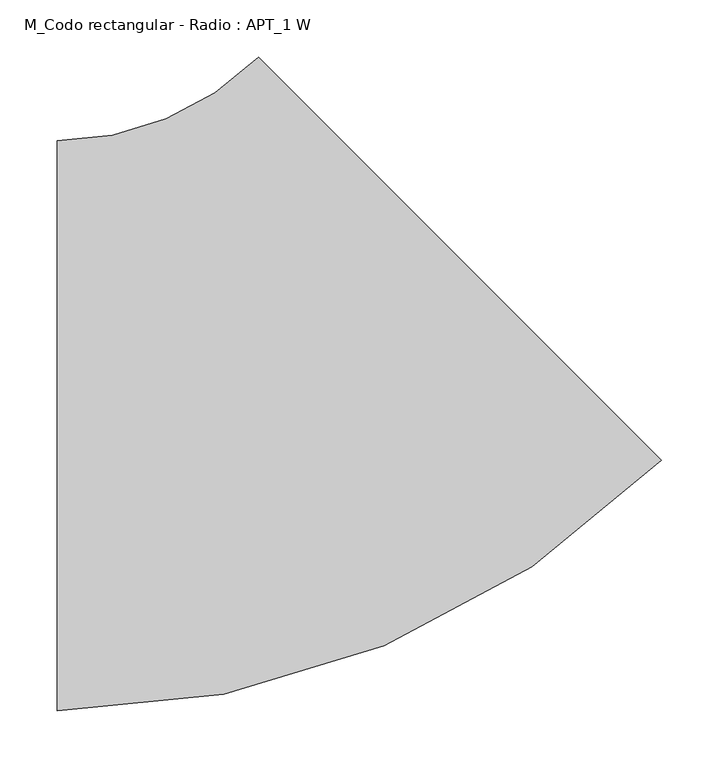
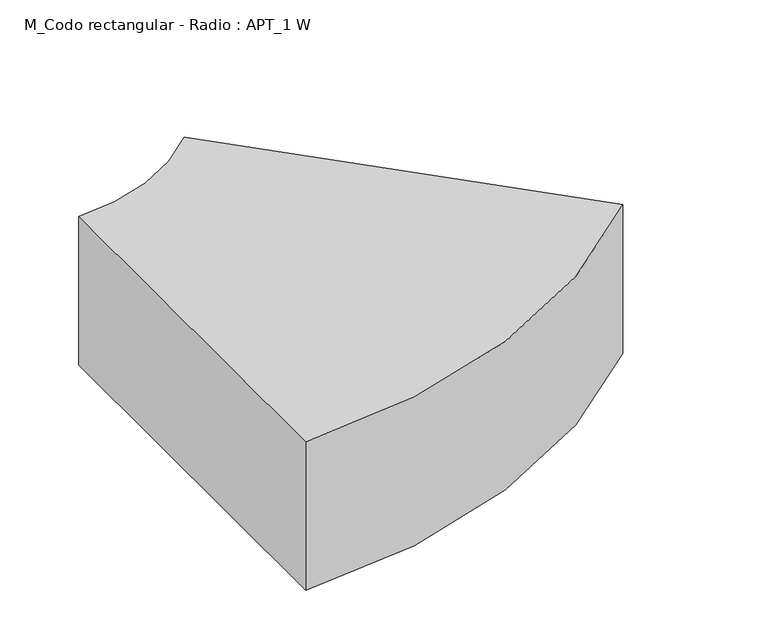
"""IFC4 building model written with IfcOpenShell, lengths in millimetres: duct fitting geometry, M_Codo rectangular - Radio : APT_1 W."""

import ifcopenshell
import ifcopenshell.guid

model = None  # the IFC model being written
_history = None  # IfcOwnerHistory: only IFC2X3 demands one
_inside = {}  # id of a spatial element -> (the spatial element, [elements in it])
_under = {}  # id of a project, library or spatial element -> (it, [spatial elements below it])
_declared = {}  # id of a project -> (the project, [libraries it declares])
_typed = {}  # id of a type object -> (the type object, [elements of that type])
_made_of = {}  # id of a material, layer set ... -> (it, [elements and type objects made of it])


def new_model(schema):
    """Start an empty IFC model of exactly this schema.

    Asked for "IFC4X3", IfcOpenShell would pick the latest addendum, in which some entities
    have other attributes; the version numbers below select the first issue.
    IFC2X3 requires an IfcOwnerHistory on every rooted entity: one is made here for all.
    """
    global model, _history
    if schema == "IFC4X3":
        model = ifcopenshell.file(schema_version=(4, 3, 0, 0))
    else:
        model = ifcopenshell.file(schema=schema)
    _inside.clear()
    _under.clear()
    _declared.clear()
    _typed.clear()
    _made_of.clear()
    _history = None
    if model.schema == "IFC2X3":
        org = make("IfcOrganization", Name="unknown")
        user = make(
            "IfcPersonAndOrganization",
            ThePerson=make("IfcPerson", FamilyName="unknown"),
            TheOrganization=org,
        )
        app = make(
            "IfcApplication",
            ApplicationDeveloper=org,
            Version="unknown",
            ApplicationFullName="unknown",
            ApplicationIdentifier="unknown",
        )
        _history = make(
            "IfcOwnerHistory",
            OwningUser=user,
            OwningApplication=app,
            ChangeAction="ADDED",
            CreationDate=0,
        )
    return model


def make(cls, **values):
    """One entity of the class cls with the attributes given. An attribute that is None is left unset."""
    return model.create_entity(
        cls, **{name: value for name, value in values.items() if value is not None}
    )


def rooted(cls, **values):
    """An entity with a GlobalId (a new one), such as an element, a storey or a relation."""
    return make(cls, GlobalId=ifcopenshell.guid.new(), OwnerHistory=_history, **values)


def si_unit(unit_type, name, prefix=None):
    """IfcSIUnit, for example si_unit("LENGTHUNIT", "METRE", prefix="MILLI")."""
    return make("IfcSIUnit", UnitType=unit_type, Prefix=prefix, Name=name)


def assignment(units):
    """IfcUnitAssignment: the units of a project."""
    return None if units is None else make("IfcUnitAssignment", Units=units)


def point(xyz):
    """IfcCartesianPoint."""
    return None if xyz is None else make("IfcCartesianPoint", Coordinates=xyz)


def direction(xyz):
    """IfcDirection."""
    return None if xyz is None else make("IfcDirection", DirectionRatios=xyz)


def frame(location, z_axis=None, x_axis=None):
    """IfcAxis2Placement3D, a coordinate frame: its origin and axes. An axis left out is left unset."""
    return make(
        "IfcAxis2Placement3D",
        Location=point(location),
        Axis=direction(z_axis),
        RefDirection=direction(x_axis),
    )


def frame_2d(location, x_axis=None):
    """IfcAxis2Placement2D, a coordinate frame in the plane: its origin and x axis."""
    return make(
        "IfcAxis2Placement2D", Location=point(location), RefDirection=direction(x_axis)
    )


def origin():
    """The frame at (0, 0, 0) with its axes left unset."""
    return frame((0.0, 0.0, 0.0))


def place(relative_to, where):
    """IfcLocalPlacement: puts the frame where relative to a parent placement (None: the world)."""
    return make(
        "IfcLocalPlacement", PlacementRelTo=relative_to, RelativePlacement=where
    )


def context(
    kind, dimensions, precision=None, world=None, true_north=None, identifier=None
):
    """IfcGeometricRepresentationContext, for example the 3D "Model" context."""
    return make(
        "IfcGeometricRepresentationContext",
        ContextIdentifier=identifier,
        ContextType=kind,
        CoordinateSpaceDimension=dimensions,
        Precision=precision,
        WorldCoordinateSystem=world,
        TrueNorth=true_north,
    )


def project(units=None, contexts=None):
    """IfcProject with its units and contexts."""
    return rooted(
        "IfcProject",
        Name="project",
        RepresentationContexts=contexts,
        UnitsInContext=assignment(units),
    )


def spatial(cls, under=None, at=None, **own):
    """A site, building, storey or space (cls), placed at a placement, below another one or the project."""
    s = rooted(cls, ObjectPlacement=at, **own)
    if under is not None:
        _under.setdefault(under.id(), (under, []))[1].append(s)
    return s


def polyline(points):
    """IfcPolyline through the points."""
    return make("IfcPolyline", Points=[point(p) for p in points])


def circle_curve(where, radius):
    """IfcCircle in the frame where."""
    return make("IfcCircle", Position=where, Radius=radius)


def trimmed(basis, trim1, trim2, sense, master):
    """IfcTrimmedCurve: the piece of a basis curve between two trims."""
    return make(
        "IfcTrimmedCurve",
        BasisCurve=basis,
        Trim1=trim1,
        Trim2=trim2,
        SenseAgreement=sense,
        MasterRepresentation=master,
    )


def segment(curve, same_sense, transition):
    """IfcCompositeCurveSegment."""
    return make(
        "IfcCompositeCurveSegment",
        Transition=transition,
        SameSense=same_sense,
        ParentCurve=curve,
    )


def composite_curve(segments, self_intersect=None):
    """IfcCompositeCurve: segments joined end to end."""
    return make("IfcCompositeCurve", Segments=segments, SelfIntersect=self_intersect)


def outline(outer, holes=None, kind="AREA"):
    """IfcArbitraryClosedProfileDef: a profile drawn as a closed curve; with holes, ...WithVoids."""
    if holes is None:
        return make("IfcArbitraryClosedProfileDef", ProfileType=kind, OuterCurve=outer)
    return make(
        "IfcArbitraryProfileDefWithVoids",
        ProfileType=kind,
        OuterCurve=outer,
        InnerCurves=holes,
    )


def extrude(swept, where, along, depth):
    """IfcExtrudedAreaSolid: the profile swept, set in the frame where, extruded along a direction by depth."""
    return make(
        "IfcExtrudedAreaSolid",
        SweptArea=swept,
        Position=where,
        ExtrudedDirection=direction(along),
        Depth=depth,
    )


def shape(context_of_items, identifier, shape_type, items):
    """IfcShapeRepresentation: the items that make up one representation, for example the "Body"."""
    return make(
        "IfcShapeRepresentation",
        ContextOfItems=context_of_items,
        RepresentationIdentifier=identifier,
        RepresentationType=shape_type,
        Items=items,
    )


def source(mapping_origin, context_of_items, identifier, shape_type, items):
    """IfcRepresentationMap: a shape defined once, which mapped items show again and again."""
    return make(
        "IfcRepresentationMap",
        MappingOrigin=mapping_origin,
        MappedRepresentation=shape(context_of_items, identifier, shape_type, items),
    )


def transform(
    local_origin,
    x_axis=None,
    y_axis=None,
    z_axis=None,
    scale=None,
    scale2=None,
    scale3=None,
    uniform=True,
):
    """IfcCartesianTransformationOperator3D, or its non-uniform kind. x_axis, y_axis, z_axis: its Axis1, 2, 3."""
    if uniform:
        return make(
            "IfcCartesianTransformationOperator3D",
            Axis1=direction(x_axis),
            Axis2=direction(y_axis),
            LocalOrigin=point(local_origin),
            Scale=scale,
            Axis3=direction(z_axis),
        )
    return make(
        "IfcCartesianTransformationOperator3DnonUniform",
        Axis1=direction(x_axis),
        Axis2=direction(y_axis),
        LocalOrigin=point(local_origin),
        Scale=scale,
        Axis3=direction(z_axis),
        Scale2=scale2,
        Scale3=scale3,
    )


def mapped(mapping_source, mapping_target):
    """IfcMappedItem: shows the shape of a source again, moved by a transform."""
    return make(
        "IfcMappedItem", MappingSource=mapping_source, MappingTarget=mapping_target
    )


def made_of(thing, what):
    """Note that an element or type object is made of a material, layer set ...; save() writes the relation."""
    if what is not None:
        _made_of.setdefault(what.id(), (what, []))[1].append(thing)
    return thing


def element(
    cls,
    number,
    at=None,
    inside=None,
    cuts=None,
    type_object=None,
    material=None,
    context=None,
    identifier="Body",
    shape_type=None,
    held_by="IfcProductDefinitionShape",
    body=None,
    shapes=None,
    **own,
):
    """One element of the class cls, such as IfcWall. Its Tag is "e" and its number.

    at: its placement. inside: the storey or other place that contains it. cuts: it is an
    opening in that element (IfcRelVoidsElement). A single representation is given by context,
    identifier, shape_type and body (its items); several are given by shapes. held_by: the class
    of the entity that holds the representations. save() writes the other relations.
    """
    e = rooted(cls, Tag="e%d" % number, ObjectPlacement=at, **own)
    if body is not None:
        shapes = [shape(context, identifier, shape_type, body)]
    if shapes is not None:
        e.Representation = make(held_by, Representations=shapes)
    if inside is not None:
        _inside.setdefault(inside.id(), (inside, []))[1].append(e)
    if cuts is not None:
        rooted(
            "IfcRelVoidsElement", RelatingBuildingElement=cuts, RelatedOpeningElement=e
        )
    if type_object is not None:
        _typed.setdefault(type_object.id(), (type_object, []))[1].append(e)
    return made_of(e, material)


def aggregate(whole, parts):
    """IfcRelAggregates: a whole, such as a stair, and the parts it consists of."""
    return rooted("IfcRelAggregates", RelatingObject=whole, RelatedObjects=parts)


def save(model, path):
    """Write the relations noted so far, then the file.

    IfcRelAggregates (storeys below a building ...), IfcRelContainedInSpatialStructure (elements
    in a storey), IfcRelDefinesByType, IfcRelAssociatesMaterial and IfcRelDeclares: one each for
    every whole, place, type object, material and project.
    """
    for whole, parts in _under.values():
        aggregate(whole, parts)
    for where, things in _inside.values():
        rooted(
            "IfcRelContainedInSpatialStructure",
            RelatedElements=things,
            RelatingStructure=where,
        )
    for kind, things in _typed.values():
        rooted("IfcRelDefinesByType", RelatedObjects=things, RelatingType=kind)
    for what, things in _made_of.values():
        rooted("IfcRelAssociatesMaterial", RelatedObjects=things, RelatingMaterial=what)
    for by, libraries in _declared.values():
        rooted("IfcRelDeclares", RelatingContext=by, RelatedDefinitions=libraries)
    model.write(path)


def m_codo_rectangular_radio_apt_1_w_ead374a0(model_context):
    return source(origin(), model_context, "Body", "SweptSolid", [
        extrude(outline(composite_curve([segment(trimmed(circle_curve(frame_2d((-207.1067812, 500.0)), 750.0), [point((323.2233047, -30.3300859))], [point((-207.1067812, -250.0))], False, "CARTESIAN"), True, "CONTINUOUS"), segment(polyline([(-207.1067812, -250.0), (-207.1067812, 250.0)]), True, "CONTINUOUS"), segment(trimmed(circle_curve(frame_2d((-207.1067812, 500.0)), 250.0), [point((-207.1067812, 250.0))], [point((-30.3300859, 323.2233047))], True, "CARTESIAN"), True, "CONTINUOUS"), segment(polyline([(-30.3300859, 323.2233047), (323.2233047, -30.3300859)]), True, "CONTINUOUS")], self_intersect=False)), frame((0.0, 0.0, -100.0), z_axis=(0.0, 0.0, 1.0), x_axis=(1.0, 0.0, 0.0)), (0.0, 0.0, 1.0), 200.0),
    ])


if __name__ == "__main__":
    model = new_model("IFC4")
    model_context = context("Model", 3, world=origin())
    ifc_project = project(units=[si_unit("LENGTHUNIT", "METRE", prefix="MILLI")], contexts=[model_context])
    site = spatial("IfcSite", under=ifc_project)
    building = spatial("IfcBuilding", under=site)
    placement = place(None, origin())
    m_codo_rectangular_radio_apt_1_w_shape = m_codo_rectangular_radio_apt_1_w_ead374a0(model_context)
    element("IfcDuctFitting", 1, ObjectType="M_Codo rectangular - Radio : APT_1 W", at=placement, inside=building, context=model_context, shape_type="MappedRepresentation", body=[
        mapped(m_codo_rectangular_radio_apt_1_w_shape, transform((0.0, 0.0, 0.0), x_axis=(1.0, 0.0, 0.0), y_axis=(0.0, 1.0, 0.0), z_axis=(0.0, 0.0, 1.0))),
    ])
    save(model, "model.ifc")
